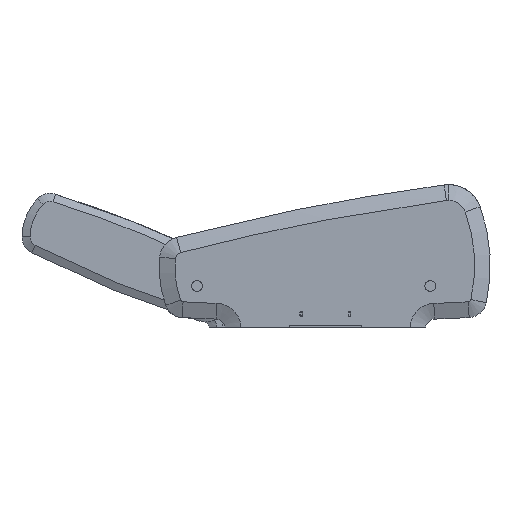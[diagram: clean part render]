
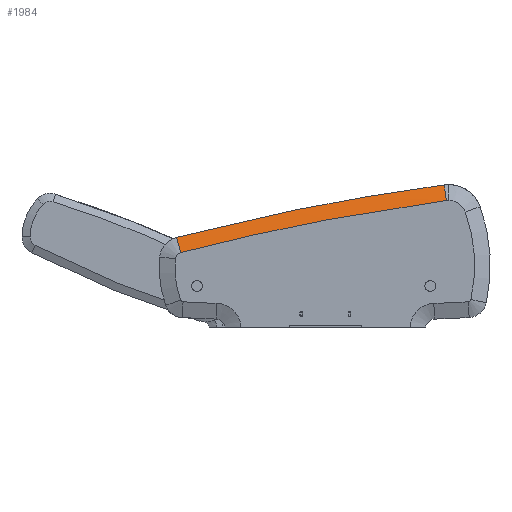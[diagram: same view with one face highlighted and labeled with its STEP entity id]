
A CAD part, front view. The second image highlights one B-rep face of the part: STEP entity #1984.
In plain terms, the highlighted free-form (B-spline) face has degree [1, 3] with [2, 10] control points.
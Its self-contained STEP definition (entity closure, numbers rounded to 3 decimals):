
#169 = CARTESIAN_POINT ( 'NONE',  ( -551.681, 16.667, 172.027 ) ) ;
#220 = CARTESIAN_POINT ( 'NONE',  ( -541.818, 0., 134.022 ) ) ;
#269 = CARTESIAN_POINT ( 'NONE',  ( -546.75, 8.333, 153.025 ) ) ;
#424 = CARTESIAN_POINT ( 'NONE',  ( 280.662, 25., 365.49 ) ) ;
#832 = CARTESIAN_POINT ( 'NONE',  ( 452.079, 0., 329.126 ) ) ;
#900 = CARTESIAN_POINT ( 'NONE',  ( 444.225, 25., 387.497 ) ) ;
#1018 = CARTESIAN_POINT ( 'NONE',  ( -377.993, 0., 175.23 ) ) ;
#1333 = CARTESIAN_POINT ( 'NONE',  ( -541.818, 0., 134.022 ) ) ;
#1457 = EDGE_CURVE ( 'NONE', #1883, #3422, #5099, .T. ) ;
#1534 = CARTESIAN_POINT ( 'NONE',  ( -556.613, 25., 191.03 ) ) ;
#1883 = VERTEX_POINT ( 'NONE', #3288 ) ;
#1984 = ADVANCED_FACE ( 'NONE', ( #5587 ), #7172, .T. ) ;
#2035 = CARTESIAN_POINT ( 'NONE',  ( 97.502, 0., 273.901 ) ) ;
#2092 = CARTESIAN_POINT ( 'NONE',  ( -556.613, 25., 191.03 ) ) ;
#2118 = CARTESIAN_POINT ( 'NONE',  ( -142.563, 25., 287.929 ) ) ;
#2169 = CARTESIAN_POINT ( 'NONE',  ( -225.766, 25., 270.295 ) ) ;
#2567 = CARTESIAN_POINT ( 'NONE',  ( 368.369, 0., 317.864 ) ) ;
#2595 = CARTESIAN_POINT ( 'NONE',  ( -213.565, 0., 213.971 ) ) ;
#2597 = EDGE_CURVE ( 'NONE', #5202, #2891, #6368, .T. ) ;
#2671 = CARTESIAN_POINT ( 'NONE',  ( -213.266, 0., 212.738 ) ) ;
#2694 = CARTESIAN_POINT ( 'NONE',  ( -391.644, 25., 232.525 ) ) ;
#2716 = CARTESIAN_POINT ( 'NONE',  ( 118.241, 0., 277.811 ) ) ;
#2733 = CARTESIAN_POINT ( 'NONE',  ( -6.287, 0., 254.578 ) ) ;
#2757 = B_SPLINE_CURVE_WITH_KNOTS ( 'NONE', 1,
 ( #3432, #5643 ),
 .UNSPECIFIED., .F., .F.,
 ( 2, 2 ),
 ( 0., 1. ),
 .UNSPECIFIED. ) ;
#2891 = VERTEX_POINT ( 'NONE', #1333 ) ;
#3180 = CARTESIAN_POINT ( 'NONE',  ( 35.214, 0., 262.401 ) ) ;
#3228 = CARTESIAN_POINT ( 'NONE',  ( 35.141, 0., 262.791 ) ) ;
#3280 = CARTESIAN_POINT ( 'NONE',  ( -130.64, 0., 230.249 ) ) ;
#3288 = CARTESIAN_POINT ( 'NONE',  ( -556.613, 25., 191.03 ) ) ;
#3422 = VERTEX_POINT ( 'NONE', #5532 ) ;
#3432 = CARTESIAN_POINT ( 'NONE',  ( 452.079, 0., 329.126 ) ) ;
#3587 = EDGE_CURVE ( 'NONE', #2891, #1883, #6318, .T. ) ;
#3736 = CARTESIAN_POINT ( 'NONE',  ( -386.686, 25., 235.131 ) ) ;
#3791 = CARTESIAN_POINT ( 'NONE',  ( 444.225, 25., 387.497 ) ) ;
#3851 = ORIENTED_EDGE ( 'NONE', *, *, #2597, .F. ) ;
#4279 = CARTESIAN_POINT ( 'NONE',  ( -54.959, 25., 310.321 ) ) ;
#4380 = ORIENTED_EDGE ( 'NONE', *, *, #3587, .F. ) ;
#4412 = CARTESIAN_POINT ( 'NONE',  ( 243.109, 0., 299.091 ) ) ;
#4829 = CARTESIAN_POINT ( 'NONE',  ( -27.023, 0., 250.588 ) ) ;
#4878 = CARTESIAN_POINT ( 'NONE',  ( 452.079, 0., 329.126 ) ) ;
#4902 = CARTESIAN_POINT ( 'NONE',  ( 368.361, 0., 317.862 ) ) ;
#4926 = ORIENTED_EDGE ( 'NONE', *, *, #1457, .F. ) ;
#5099 = B_SPLINE_CURVE_WITH_KNOTS ( 'NONE', 3,
 ( #1534, #3736, #4279, #424, #900 ),
 .UNSPECIFIED., .F., .F.,
 ( 4, 1, 4 ),
 ( 0., 0.515, 1. ),
 .UNSPECIFIED. ) ;
#5202 = VERTEX_POINT ( 'NONE', #832 ) ;
#5258 = CARTESIAN_POINT ( 'NONE',  ( -556.613, 25., 191.03 ) ) ;
#5303 = EDGE_LOOP ( 'NONE', ( #6921, #4926, #4380, #3851 ) ) ;
#5462 = CARTESIAN_POINT ( 'NONE',  ( -474.28, 25., 212.398 ) ) ;
#5532 = CARTESIAN_POINT ( 'NONE',  ( 444.225, 25., 387.497 ) ) ;
#5587 = FACE_OUTER_BOUND ( 'NONE', #5303, .T. ) ;
#5643 = CARTESIAN_POINT ( 'NONE',  ( 444.225, 25., 387.497 ) ) ;
#6318 = B_SPLINE_CURVE_WITH_KNOTS ( 'NONE', 3,
 ( #220, #269, #169, #5258 ),
 .UNSPECIFIED., .F., .F.,
 ( 4, 4 ),
 ( 0., 1. ),
 .UNSPECIFIED. ) ;
#6368 = B_SPLINE_CURVE_WITH_KNOTS ( 'NONE', 3,
 ( #7019, #2567, #4412, #2035, #3180, #2733, #4829, #2595, #7162, #6485 ),
 .UNSPECIFIED., .F., .F.,
 ( 4, 1, 1, 2, 2, 4 ),
 ( 0., 0.25, 0.375, 0.438, 0.5, 1. ),
 .UNSPECIFIED. ) ;
#6485 = CARTESIAN_POINT ( 'NONE',  ( -541.818, 0., 134.022 ) ) ;
#6547 = CARTESIAN_POINT ( 'NONE',  ( 108.055, 25., 335.822 ) ) ;
#6590 = CARTESIAN_POINT ( 'NONE',  ( -541.818, 0., 134.022 ) ) ;
#6613 = CARTESIAN_POINT ( 'NONE',  ( 284.85, 0., 305.346 ) ) ;
#6821 = EDGE_CURVE ( 'NONE', #5202, #3422, #2757, .T. ) ;
#6921 = ORIENTED_EDGE ( 'NONE', *, *, #6821, .T. ) ;
#7019 = CARTESIAN_POINT ( 'NONE',  ( 452.079, 0., 329.126 ) ) ;
#7127 = CARTESIAN_POINT ( 'NONE',  ( 24.375, 25., 320.697 ) ) ;
#7149 = CARTESIAN_POINT ( 'NONE',  ( -460.055, 0., 155.242 ) ) ;
#7162 = CARTESIAN_POINT ( 'NONE',  ( -378.254, 0., 176.472 ) ) ;
#7170 = CARTESIAN_POINT ( 'NONE',  ( 359.924, 25., 376.154 ) ) ;
#7172 = B_SPLINE_SURFACE_WITH_KNOTS ( 'NONE', 1, 3, ( 
 ( #2092, #5462, #2694, #2169, #2118, #7127, #6547, #7201, #7170, #3791 ),
 ( #6590, #7149, #1018, #2671, #3280, #3228, #2716, #6613, #4902, #4878 ) ),
 .UNSPECIFIED., .F., .F., .F.,
 ( 2, 2 ),
 ( 4, 2, 2, 2, 4 ),
 ( 0., 1. ),
 ( 0., 0.253, 0.507, 0.76, 1.014 ),
 .UNSPECIFIED. ) ;
#7201 = CARTESIAN_POINT ( 'NONE',  ( 275.829, 25., 363.551 ) ) ;
